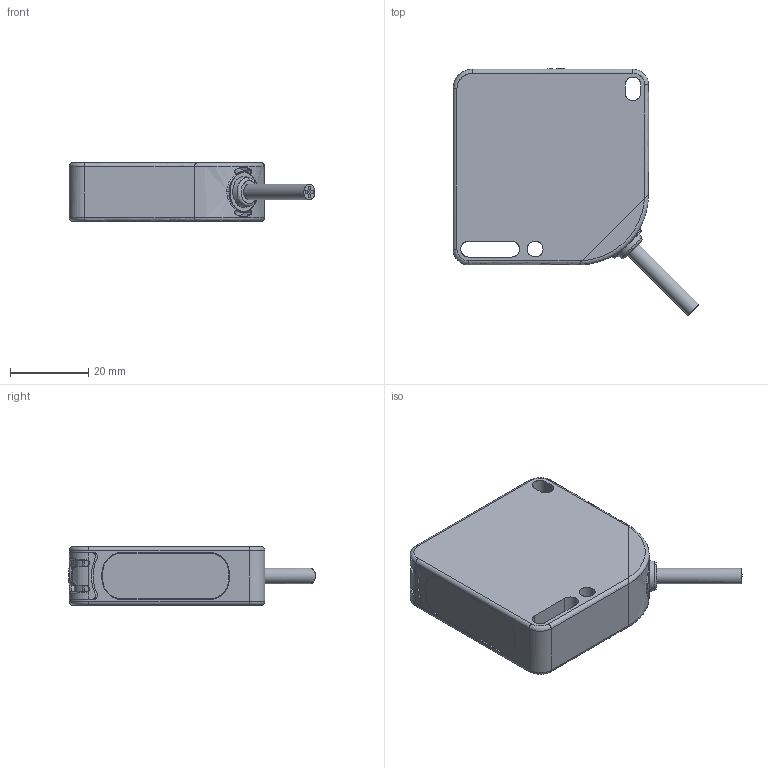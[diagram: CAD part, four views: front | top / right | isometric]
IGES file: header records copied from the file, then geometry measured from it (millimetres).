
Global section: file name: D:\Studi\DSD-0187.igs; preprocessor: I-DEAS 3D IGES Translator 11; date: 20080901.125127; units: millimetre
Bounding box: 62.89 x 63.15 x 15 mm (x, y, z)
Volume: 504.6 mm3; surface area: 11944.5 mm2
Topology: 2 solids, 2 shells, 264 faces, 1258 edges, 1156 vertices
Faces by surface type: bspline 264
